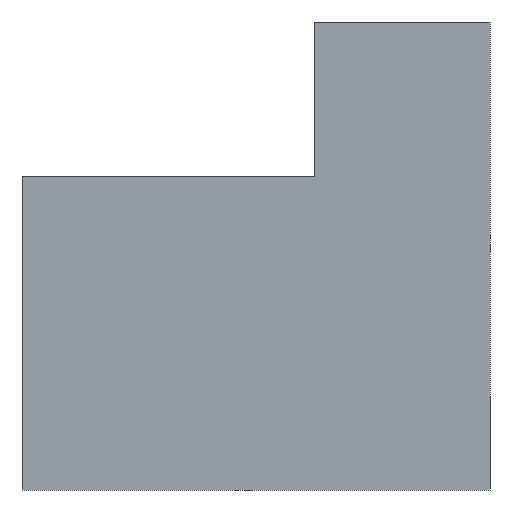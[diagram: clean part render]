
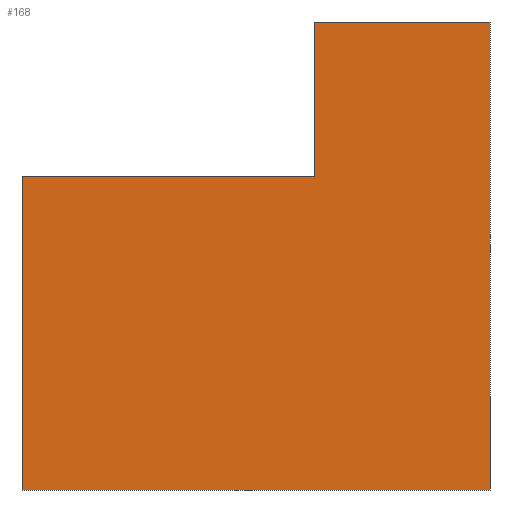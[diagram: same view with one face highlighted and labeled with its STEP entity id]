
A CAD part, front view. The second image highlights one B-rep face of the part: STEP entity #168.
In plain terms, the highlighted planar face has unit normal (0, -1, 0).
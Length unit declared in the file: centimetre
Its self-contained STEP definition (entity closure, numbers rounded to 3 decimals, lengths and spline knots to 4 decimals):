
#2 = EDGE_CURVE ( 'NONE', #81, #360, #355, .T. ) ;
#5 = EDGE_CURVE ( 'NONE', #113, #173, #112, .T. ) ;
#19 = ORIENTED_EDGE ( 'NONE', *, *, #251, .F. ) ;
#21 = CARTESIAN_POINT ( 'NONE',  ( 0., 0., 0. ) ) ;
#25 = DIRECTION ( 'NONE',  ( 0., 0., -1. ) ) ;
#28 = CARTESIAN_POINT ( 'NONE',  ( 1000., 0., 0. ) ) ;
#35 = AXIS2_PLACEMENT_3D ( 'NONE', #397, #246, #337 ) ;
#52 = VERTEX_POINT ( 'NONE', #222 ) ;
#64 = LINE ( 'NONE', #123, #172 ) ;
#79 = ORIENTED_EDGE ( 'NONE', *, *, #2, .T. ) ;
#81 = VERTEX_POINT ( 'NONE', #189 ) ;
#83 = CARTESIAN_POINT ( 'NONE',  ( 626.0151, 0., 669.9174 ) ) ;
#85 = FACE_OUTER_BOUND ( 'NONE', #299, .T. ) ;
#86 = LINE ( 'NONE', #270, #255 ) ;
#88 = CARTESIAN_POINT ( 'NONE',  ( 626.0151, 0., 1000. ) ) ;
#92 = DIRECTION ( 'NONE',  ( 0., 0., -1. ) ) ;
#112 = LINE ( 'NONE', #353, #354 ) ;
#113 = VERTEX_POINT ( 'NONE', #88 ) ;
#123 = CARTESIAN_POINT ( 'NONE',  ( 1000., 0., 1000. ) ) ;
#161 = LINE ( 'NONE', #289, #349 ) ;
#168 = ADVANCED_FACE ( 'NONE', ( #85 ), #400, .F. ) ;
#172 = VECTOR ( 'NONE', #25, 100. ) ;
#173 = VERTEX_POINT ( 'NONE', #256 ) ;
#189 = CARTESIAN_POINT ( 'NONE',  ( 0., 0., 0. ) ) ;
#202 = VECTOR ( 'NONE', #242, 100. ) ;
#203 = DIRECTION ( 'NONE',  ( 1., 0., 0. ) ) ;
#215 = LINE ( 'NONE', #301, #240 ) ;
#222 = CARTESIAN_POINT ( 'NONE',  ( 0., 0., 669.9174 ) ) ;
#240 = VECTOR ( 'NONE', #309, 100. ) ;
#242 = DIRECTION ( 'NONE',  ( 1., 0., 0. ) ) ;
#246 = DIRECTION ( 'NONE',  ( 0., 1., 0. ) ) ;
#251 = EDGE_CURVE ( 'NONE', #386, #113, #161, .T. ) ;
#255 = VECTOR ( 'NONE', #92, 100. ) ;
#256 = CARTESIAN_POINT ( 'NONE',  ( 1000., 0., 1000. ) ) ;
#263 = EDGE_CURVE ( 'NONE', #173, #360, #64, .T. ) ;
#270 = CARTESIAN_POINT ( 'NONE',  ( 0., 0., 1000. ) ) ;
#289 = CARTESIAN_POINT ( 'NONE',  ( 626.0151, 0., 669.9174 ) ) ;
#299 = EDGE_LOOP ( 'NONE', ( #19, #392, #335, #79, #371, #330 ) ) ;
#301 = CARTESIAN_POINT ( 'NONE',  ( 626.0151, 0., 669.9174 ) ) ;
#309 = DIRECTION ( 'NONE',  ( -1., 0., 0. ) ) ;
#330 = ORIENTED_EDGE ( 'NONE', *, *, #5, .F. ) ;
#335 = ORIENTED_EDGE ( 'NONE', *, *, #362, .T. ) ;
#337 = DIRECTION ( 'NONE',  ( 0., 0., 1. ) ) ;
#348 = EDGE_CURVE ( 'NONE', #386, #52, #215, .T. ) ;
#349 = VECTOR ( 'NONE', #398, 100. ) ;
#353 = CARTESIAN_POINT ( 'NONE',  ( 0., 0., 1000. ) ) ;
#354 = VECTOR ( 'NONE', #203, 100. ) ;
#355 = LINE ( 'NONE', #21, #202 ) ;
#360 = VERTEX_POINT ( 'NONE', #28 ) ;
#362 = EDGE_CURVE ( 'NONE', #52, #81, #86, .T. ) ;
#371 = ORIENTED_EDGE ( 'NONE', *, *, #263, .F. ) ;
#386 = VERTEX_POINT ( 'NONE', #83 ) ;
#392 = ORIENTED_EDGE ( 'NONE', *, *, #348, .T. ) ;
#397 = CARTESIAN_POINT ( 'NONE',  ( 0., 0., 1000. ) ) ;
#398 = DIRECTION ( 'NONE',  ( 0., 0., 1. ) ) ;
#400 = PLANE ( 'NONE',  #35 ) ;
